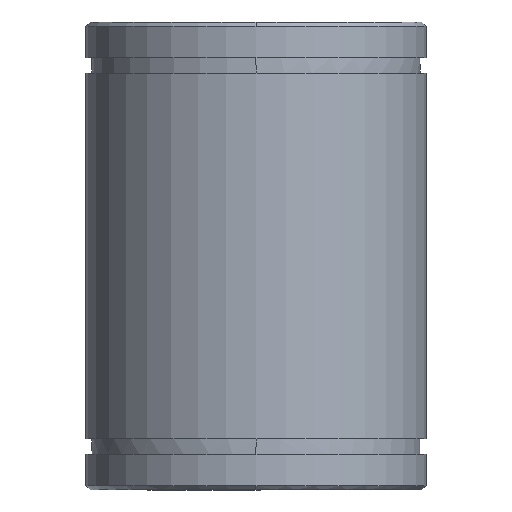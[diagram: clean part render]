
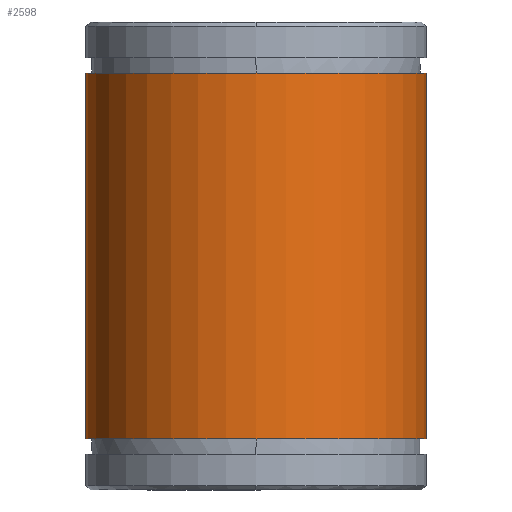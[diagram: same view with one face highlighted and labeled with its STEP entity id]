
A CAD part, front view. The second image highlights one B-rep face of the part: STEP entity #2598.
In plain terms, the highlighted cylindrical face has radius 20 mm (diameter 40 mm), a partial arc.
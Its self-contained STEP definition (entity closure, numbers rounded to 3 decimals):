
#1677=CARTESIAN_POINT('Axis2P3D Location',(0.,0.,49.)) ;
#1681=CARTESIAN_POINT('Vertex',(-20.,0.,49.)) ;
#1683=CARTESIAN_POINT('Vertex',(20.,0.,49.)) ;
#2568=CARTESIAN_POINT('Axis2P3D Location',(0.,0.,-2.75)) ;
#2573=CARTESIAN_POINT('Line Origine',(20.,0.,-2.75)) ;
#2577=CARTESIAN_POINT('Vertex',(20.,0.,6.)) ;
#2580=CARTESIAN_POINT('Line Origine',(-20.,0.,-2.75)) ;
#2584=CARTESIAN_POINT('Vertex',(-20.,0.,6.)) ;
#2587=CARTESIAN_POINT('Axis2P3D Location',(0.,0.,6.)) ;
#1678=DIRECTION('Axis2P3D Direction',(0.,-0.,1.)) ;
#2569=DIRECTION('Axis2P3D Direction',(0.,0.,1.)) ;
#2570=DIRECTION('Axis2P3D XDirection',(-1.,0.,0.)) ;
#2574=DIRECTION('Vector Direction',(0.,0.,1.)) ;
#2581=DIRECTION('Vector Direction',(0.,0.,1.)) ;
#2588=DIRECTION('Axis2P3D Direction',(0.,0.,1.)) ;
#1679=AXIS2_PLACEMENT_3D('Circle Axis2P3D',#1677,#1678,$) ;
#2571=AXIS2_PLACEMENT_3D('Cylinder Axis2P3D',#2568,#2569,#2570) ;
#2589=AXIS2_PLACEMENT_3D('Circle Axis2P3D',#2587,#2588,$) ;
#2593=ORIENTED_EDGE('',*,*,#2579,.F.) ;
#2594=ORIENTED_EDGE('',*,*,#1685,.F.) ;
#2595=ORIENTED_EDGE('',*,*,#2586,.T.) ;
#2596=ORIENTED_EDGE('',*,*,#2591,.F.) ;
#2575=VECTOR('Line Direction',#2574,1.) ;
#2582=VECTOR('Line Direction',#2581,1.) ;
#2598=ADVANCED_FACE('MANIFOLD_SOLID_BREP #2424',(#2597),#2572,.T.) ;
#1680=CIRCLE('generated circle',#1679,20.) ;
#2590=CIRCLE('generated circle',#2589,20.) ;
#2572=CYLINDRICAL_SURFACE('generated cylinder',#2571,20.) ;
#1685=EDGE_CURVE('',#1682,#1684,#1680,.T.) ;
#2579=EDGE_CURVE('',#1684,#2578,#2576,.F.) ;
#2586=EDGE_CURVE('',#1682,#2585,#2583,.F.) ;
#2591=EDGE_CURVE('',#2578,#2585,#2590,.F.) ;
#2592=EDGE_LOOP('',(#2593,#2594,#2595,#2596)) ;
#2597=FACE_OUTER_BOUND('',#2592,.T.) ;
#2576=LINE('Line',#2573,#2575) ;
#2583=LINE('Line',#2580,#2582) ;
#1682=VERTEX_POINT('',#1681) ;
#1684=VERTEX_POINT('',#1683) ;
#2578=VERTEX_POINT('',#2577) ;
#2585=VERTEX_POINT('',#2584) ;
